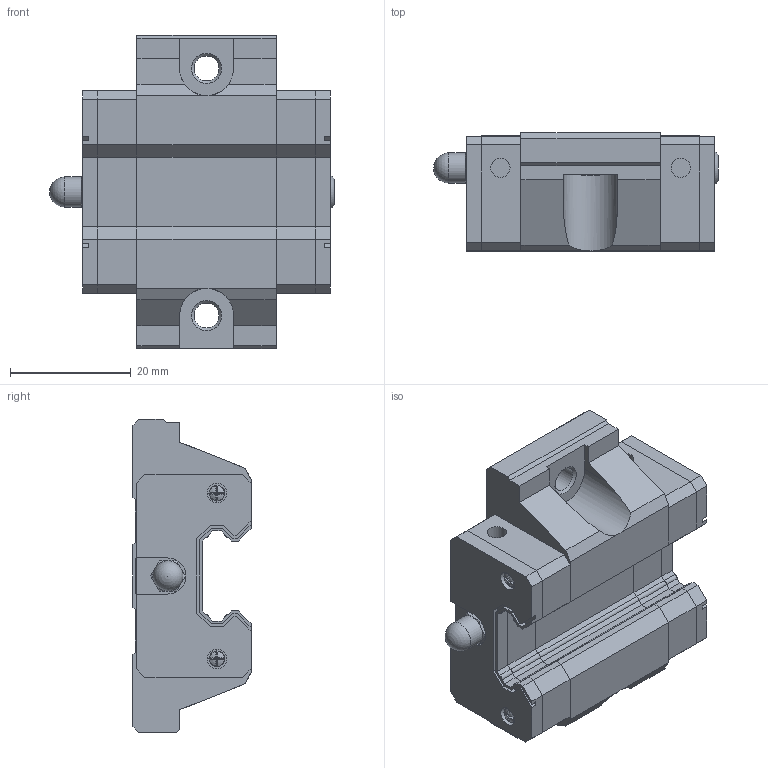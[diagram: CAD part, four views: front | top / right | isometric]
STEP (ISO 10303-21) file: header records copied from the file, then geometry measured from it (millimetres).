
FILE_DESCRIPTION(('FreeCAD Model'),'2;1');
FILE_NAME('Open CASCADE Shape Model','2024-12-05T09:57:41',('Author'),( ''),'Open CASCADE STEP processor 7.6','FreeCAD','Unknown');
FILE_SCHEMA(('AUTOMOTIVE_DESIGN { 1 0 10303 214 1 1 1 1 }'));
Length unit declared in the file: millimetre
Products named in the file (7): EW15SC; _GEW15SC_slider; _GES15_C; _GES15_P; _GH15_SCREW008; _GH15_BOLT002; _GH15-_G002
Assembly tree (11 placements, depth 2):
  EW15SC
    _GEW15SC_slider
    _GES15_C  x2
    _GES15_P  x2
    _GH15_SCREW008  x4
    _GH15_BOLT002
    _GH15-_G002
Bounding box: 47.27 x 19.6 x 52 mm (x, y, z)
Volume: 25764.5 mm3; surface area: 12682.7 mm2
Topology: 11 solids, 11 shells, 376 faces, 1007 edges, 665 vertices
Faces by surface type: plane 304, cylinder 50, cone 12, sphere 5, torus 5
Full cylindrical faces by diameter (mm): 2.2 x4, 2.64 x4, 3.15 x2, 3.2 x4, 3.23 x4, 4 x2, 4.134 x2, 4.3 x2, 5 x1, 5.5 x1
Entity records: 7092 total; most frequent: CARTESIAN_POINT 1288, ORIENTED_EDGE 1178, DIRECTION 1114, EDGE_CURVE 589, LINE 454, VECTOR 454, VERTEX_POINT 389, AXIS2_PLACEMENT_3D 330
